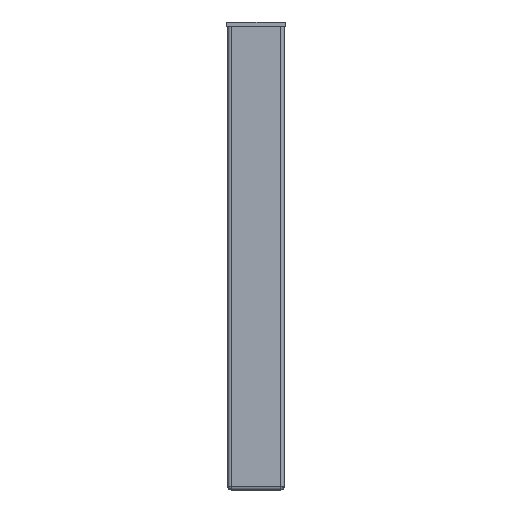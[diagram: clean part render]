
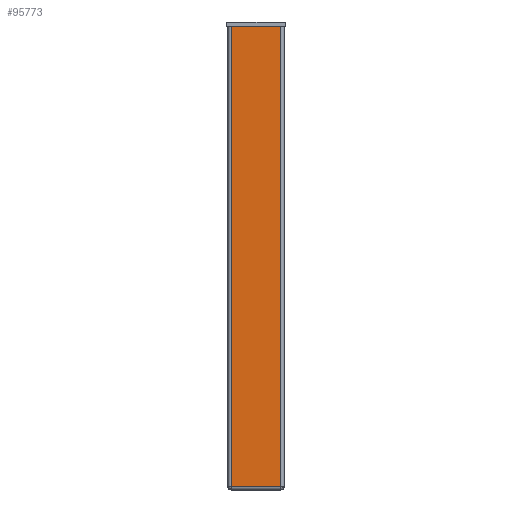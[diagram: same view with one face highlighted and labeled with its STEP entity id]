
A CAD part, left-side view. The second image highlights one B-rep face of the part: STEP entity #95773.
In plain terms, the highlighted planar face has unit normal (-1, 0, 0).
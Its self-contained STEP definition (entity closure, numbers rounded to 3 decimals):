
#3918 = EDGE_CURVE ( 'NONE', #98703, #95769, #93820, .T. ) ;
#73642 = PLANE ( 'NONE',  #73688 ) ;
#73680 = DIRECTION ( 'NONE',  ( 0., 0., -1. ) ) ;
#73681 = DIRECTION ( 'NONE',  ( 1., 0., 0. ) ) ;
#73686 = CARTESIAN_POINT ( 'NONE',  ( -215.5, 0., 0. ) ) ;
#73688 = AXIS2_PLACEMENT_3D ( 'NONE', #73686, #73681, #73680 ) ;
#73692 = CARTESIAN_POINT ( 'NONE',  ( -215.5, 18.7, 173.85 ) ) ;
#73696 = CARTESIAN_POINT ( 'NONE',  ( -215.5, -18.7, 173.85 ) ) ;
#73700 = FACE_OUTER_BOUND ( 'NONE', #96090, .T. ) ;
#73708 = DIRECTION ( 'NONE',  ( 0., -1., 0. ) ) ;
#73709 = VECTOR ( 'NONE', #73708, 1000. ) ;
#73710 = CARTESIAN_POINT ( 'NONE',  ( -215.5, 0., -171.45 ) ) ;
#73711 = LINE ( 'NONE', #73710, #73709 ) ;
#73713 = DIRECTION ( 'NONE',  ( 0., 0., -1. ) ) ;
#73714 = VECTOR ( 'NONE', #73713, 1000. ) ;
#73717 = DIRECTION ( 'NONE',  ( 0., -1., 0. ) ) ;
#73718 = VECTOR ( 'NONE', #73717, 1000. ) ;
#73719 = CARTESIAN_POINT ( 'NONE',  ( -215.5, 21.1, 173.85 ) ) ;
#73720 = LINE ( 'NONE', #73727, #73714 ) ;
#73725 = LINE ( 'NONE', #73719, #73718 ) ;
#73727 = CARTESIAN_POINT ( 'NONE',  ( -215.5, 18.7, 0. ) ) ;
#74024 = CARTESIAN_POINT ( 'NONE',  ( -215.5, 18.7, -171.45 ) ) ;
#74726 = CARTESIAN_POINT ( 'NONE',  ( -215.5, -18.7, -171.45 ) ) ;
#93817 = DIRECTION ( 'NONE',  ( 0., 0., 1. ) ) ;
#93818 = VECTOR ( 'NONE', #93817, 1000. ) ;
#93819 = CARTESIAN_POINT ( 'NONE',  ( -215.5, -18.7, 0. ) ) ;
#93820 = LINE ( 'NONE', #93819, #93818 ) ;
#95768 = VERTEX_POINT ( 'NONE', #73692 ) ;
#95769 = VERTEX_POINT ( 'NONE', #73696 ) ;
#95773 = ADVANCED_FACE ( 'NONE', ( #73700 ), #73642, .F. ) ;
#95906 = EDGE_CURVE ( 'NONE', #95768, #95769, #73725, .T. ) ;
#95947 = ORIENTED_EDGE ( 'NONE', *, *, #95906, .F. ) ;
#95949 = EDGE_CURVE ( 'NONE', #95768, #96738, #73720, .T. ) ;
#95951 = ORIENTED_EDGE ( 'NONE', *, *, #95949, .T. ) ;
#95952 = EDGE_CURVE ( 'NONE', #96738, #98703, #73711, .T. ) ;
#95956 = ORIENTED_EDGE ( 'NONE', *, *, #95952, .T. ) ;
#95979 = ORIENTED_EDGE ( 'NONE', *, *, #3918, .T. ) ;
#96090 = EDGE_LOOP ( 'NONE', ( #95947, #95951, #95956, #95979 ) ) ;
#96738 = VERTEX_POINT ( 'NONE', #74024 ) ;
#98703 = VERTEX_POINT ( 'NONE', #74726 ) ;
